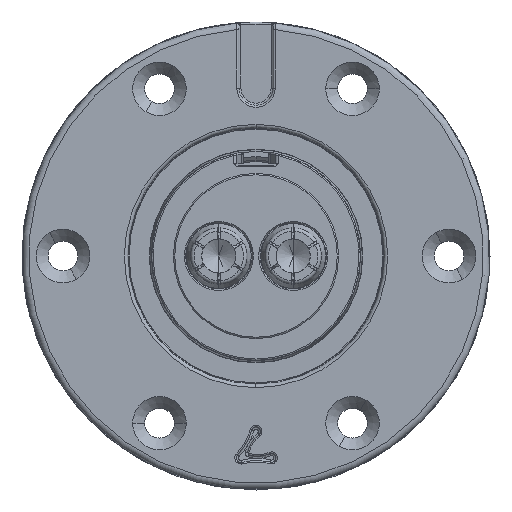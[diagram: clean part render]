
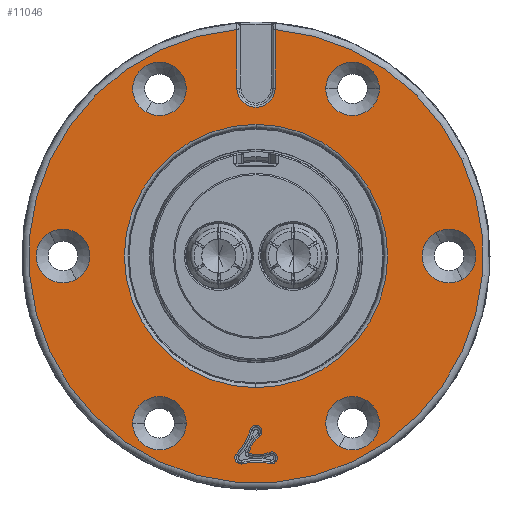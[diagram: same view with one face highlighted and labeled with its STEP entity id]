
A CAD part, front view. The second image highlights one B-rep face of the part: STEP entity #11046.
In plain terms, the highlighted planar face has unit normal (0, -1, 0).
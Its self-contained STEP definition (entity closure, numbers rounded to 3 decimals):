
#8025=CARTESIAN_POINT('',(0.,14.5,0.));
#8026=DIRECTION('',(0.,-1.,0.));
#8027=DIRECTION('',(-0.084,0.,0.996));
#8028=AXIS2_PLACEMENT_3D('',#8025,#8026,#8027);
#8046=CARTESIAN_POINT('',(0.,14.5,0.));
#8047=DIRECTION('',(0.,-1.,0.));
#8048=DIRECTION('',(0.,0.,-1.));
#8049=AXIS2_PLACEMENT_3D('',#8046,#8047,#8048);
#8051=CARTESIAN_POINT('',(0.,14.5,0.));
#8052=DIRECTION('',(0.,-1.,0.));
#8053=DIRECTION('',(0.,0.,1.));
#8054=AXIS2_PLACEMENT_3D('',#8051,#8052,#8053);
#8056=DIRECTION('',(0.,0.,-1.));
#8057=VECTOR('',#8056,8.582);
#8058=CARTESIAN_POINT('',(2.8,14.5,33.182));
#8059=LINE('',#8058,#8057);
#8060=DIRECTION('',(0.,0.,1.));
#8061=VECTOR('',#8060,8.582);
#8062=CARTESIAN_POINT('',(-2.8,14.5,24.6));
#8063=LINE('',#8062,#8061);
#8064=CARTESIAN_POINT('',(0.,14.5,24.6));
#8065=DIRECTION('',(0.,1.,0.));
#8066=DIRECTION('',(1.,0.,0.));
#8067=AXIS2_PLACEMENT_3D('',#8064,#8065,#8066);
#8069=CARTESIAN_POINT('',(14.15,14.5,24.509));
#8070=DIRECTION('',(0.,1.,0.));
#8071=DIRECTION('',(1.,0.,0.));
#8072=AXIS2_PLACEMENT_3D('',#8069,#8070,#8071);
#8074=CARTESIAN_POINT('',(14.15,14.5,24.509));
#8075=DIRECTION('',(0.,1.,0.));
#8076=DIRECTION('',(-1.,0.,0.));
#8077=AXIS2_PLACEMENT_3D('',#8074,#8075,#8076);
#8079=CARTESIAN_POINT('',(-14.15,14.5,24.509));
#8080=DIRECTION('',(0.,1.,0.));
#8081=DIRECTION('',(0.5,0.,0.866));
#8082=AXIS2_PLACEMENT_3D('',#8079,#8080,#8081);
#8084=CARTESIAN_POINT('',(-14.15,14.5,24.509));
#8085=DIRECTION('',(0.,1.,0.));
#8086=DIRECTION('',(-0.5,0.,-0.866));
#8087=AXIS2_PLACEMENT_3D('',#8084,#8085,#8086);
#8089=CARTESIAN_POINT('',(-28.3,14.5,0.));
#8090=DIRECTION('',(0.,1.,0.));
#8091=DIRECTION('',(-0.5,0.,0.866));
#8092=AXIS2_PLACEMENT_3D('',#8089,#8090,#8091);
#8094=CARTESIAN_POINT('',(-28.3,14.5,0.));
#8095=DIRECTION('',(0.,1.,0.));
#8096=DIRECTION('',(0.5,0.,-0.866));
#8097=AXIS2_PLACEMENT_3D('',#8094,#8095,#8096);
#8099=CARTESIAN_POINT('',(-14.15,14.5,-24.509));
#8100=DIRECTION('',(0.,1.,0.));
#8101=DIRECTION('',(-1.,0.,0.));
#8102=AXIS2_PLACEMENT_3D('',#8099,#8100,#8101);
#8104=CARTESIAN_POINT('',(-14.15,14.5,-24.509));
#8105=DIRECTION('',(0.,1.,0.));
#8106=DIRECTION('',(1.,0.,0.));
#8107=AXIS2_PLACEMENT_3D('',#8104,#8105,#8106);
#8109=CARTESIAN_POINT('',(14.15,14.5,-24.509));
#8110=DIRECTION('',(0.,1.,0.));
#8111=DIRECTION('',(-0.5,0.,-0.866));
#8112=AXIS2_PLACEMENT_3D('',#8109,#8110,#8111);
#8114=CARTESIAN_POINT('',(14.15,14.5,-24.509));
#8115=DIRECTION('',(0.,1.,0.));
#8116=DIRECTION('',(0.5,0.,0.866));
#8117=AXIS2_PLACEMENT_3D('',#8114,#8115,#8116);
#8119=CARTESIAN_POINT('',(28.3,14.5,0.));
#8120=DIRECTION('',(0.,1.,0.));
#8121=DIRECTION('',(0.5,0.,-0.866));
#8122=AXIS2_PLACEMENT_3D('',#8119,#8120,#8121);
#8124=CARTESIAN_POINT('',(28.3,14.5,0.));
#8125=DIRECTION('',(0.,1.,0.));
#8126=DIRECTION('',(-0.5,0.,0.866));
#8127=AXIS2_PLACEMENT_3D('',#8124,#8125,#8126);
#8129=CARTESIAN_POINT('',(0.,14.5,-25.7));
#8130=DIRECTION('',(0.,1.,0.));
#8131=DIRECTION('',(-0.96,0.,0.281));
#8132=AXIS2_PLACEMENT_3D('',#8129,#8130,#8131);
#8134=CARTESIAN_POINT('',(-9.357,14.5,-22.959));
#8135=DIRECTION('',(0.,-1.,0.));
#8136=DIRECTION('',(0.73,0.,-0.683));
#8137=AXIS2_PLACEMENT_3D('',#8134,#8135,#8136);
#8139=CARTESIAN_POINT('',(-2.239,14.5,-29.622));
#8140=DIRECTION('',(0.,1.,0.));
#8141=DIRECTION('',(0.24,0.,-0.971));
#8142=AXIS2_PLACEMENT_3D('',#8139,#8140,#8141);
#8144=CARTESIAN_POINT('',(0.106,14.5,-39.086));
#8145=DIRECTION('',(0.,-1.,0.));
#8146=DIRECTION('',(0.221,0.,0.975));
#8147=AXIS2_PLACEMENT_3D('',#8144,#8145,#8146);
#8149=CARTESIAN_POINT('',(2.264,14.5,-29.578));
#8150=DIRECTION('',(0.,1.,0.));
#8151=DIRECTION('',(-0.392,0.,0.92));
#8152=AXIS2_PLACEMENT_3D('',#8149,#8150,#8151);
#8154=CARTESIAN_POINT('',(0.227,14.5,-24.793));
#8155=DIRECTION('',(0.,-1.,0.));
#8156=DIRECTION('',(-0.287,0.,-0.958));
#8157=AXIS2_PLACEMENT_3D('',#8154,#8155,#8156);
#8159=CARTESIAN_POINT('',(-1.003,14.5,-28.903));
#8160=DIRECTION('',(0.,1.,0.));
#8161=DIRECTION('',(-0.287,0.,-0.958));
#8162=AXIS2_PLACEMENT_3D('',#8159,#8160,#8161);
#8164=CARTESIAN_POINT('',(3.192,14.5,-29.805));
#8165=DIRECTION('',(0.,-1.,0.));
#8166=DIRECTION('',(-0.614,0.,0.789));
#8167=AXIS2_PLACEMENT_3D('',#8164,#8165,#8166);
#10371=CARTESIAN_POINT('',(2.8,14.5,33.182));
#10372=CARTESIAN_POINT('',(2.8,14.5,24.6));
#10373=VERTEX_POINT('',#10371);
#10374=VERTEX_POINT('',#10372);
#10379=CARTESIAN_POINT('',(-2.8,14.5,33.182));
#10380=VERTEX_POINT('',#10379);
#10409=CARTESIAN_POINT('',(18.075,14.5,24.509));
#10410=CARTESIAN_POINT('',(10.225,14.5,24.509));
#10411=VERTEX_POINT('',#10409);
#10412=VERTEX_POINT('',#10410);
#10421=CARTESIAN_POINT('',(-12.188,14.5,27.908));
#10422=CARTESIAN_POINT('',(-16.113,14.5,21.109));
#10423=VERTEX_POINT('',#10421);
#10424=VERTEX_POINT('',#10422);
#10433=CARTESIAN_POINT('',(-30.263,14.5,3.399));
#10434=CARTESIAN_POINT('',(-26.338,14.5,-3.399));
#10435=VERTEX_POINT('',#10433);
#10436=VERTEX_POINT('',#10434);
#10445=CARTESIAN_POINT('',(-18.075,14.5,-24.509));
#10446=CARTESIAN_POINT('',(-10.225,14.5,-24.509));
#10447=VERTEX_POINT('',#10445);
#10448=VERTEX_POINT('',#10446);
#10523=CARTESIAN_POINT('',(0.,14.5,-19.3));
#10524=CARTESIAN_POINT('',(0.,14.5,19.3));
#10525=VERTEX_POINT('',#10523);
#10526=VERTEX_POINT('',#10524);
#10537=CARTESIAN_POINT('',(12.188,14.5,-27.908));
#10538=CARTESIAN_POINT('',(16.113,14.5,-21.109));
#10539=VERTEX_POINT('',#10537);
#10540=VERTEX_POINT('',#10538);
#10545=CARTESIAN_POINT('',(30.263,14.5,-3.399));
#10546=CARTESIAN_POINT('',(26.338,14.5,3.399));
#10547=VERTEX_POINT('',#10545);
#10548=VERTEX_POINT('',#10546);
#10549=CARTESIAN_POINT('',(-0.835,14.5,-25.455));
#10550=CARTESIAN_POINT('',(0.534,14.5,-26.387));
#10551=VERTEX_POINT('',#10549);
#10552=VERTEX_POINT('',#10550);
#10553=CARTESIAN_POINT('',(-1.042,14.5,-28.895));
#10554=VERTEX_POINT('',#10553);
#10555=CARTESIAN_POINT('',(-1.014,14.5,-28.942));
#10556=VERTEX_POINT('',#10555);
#10557=CARTESIAN_POINT('',(1.924,14.5,-28.777));
#10558=VERTEX_POINT('',#10557);
#10559=CARTESIAN_POINT('',(2.072,14.5,-30.426));
#10560=VERTEX_POINT('',#10559);
#10561=CARTESIAN_POINT('',(-2.03,14.5,-30.467));
#10562=VERTEX_POINT('',#10561);
#10563=CARTESIAN_POINT('',(-2.874,14.5,-29.027));
#10564=VERTEX_POINT('',#10563);
#10573=CARTESIAN_POINT('',(-2.8,14.5,24.6));
#10574=VERTEX_POINT('',#10573);
#10972=CARTESIAN_POINT('',(0.,14.5,0.));
#10973=DIRECTION('',(0.,1.,0.));
#10974=DIRECTION('',(0.,0.,-1.));
#10975=AXIS2_PLACEMENT_3D('',#10972,#10973,#10974);
#10976=PLANE('',#10975);
#10978=ORIENTED_EDGE('',*,*,#10977,.F.);
#10979=ORIENTED_EDGE('',*,*,#10958,.F.);
#10981=ORIENTED_EDGE('',*,*,#10980,.F.);
#10983=ORIENTED_EDGE('',*,*,#10982,.F.);
#10984=EDGE_LOOP('',(#10978,#10979,#10981,#10983));
#10985=FACE_OUTER_BOUND('',#10984,.F.);
#10987=ORIENTED_EDGE('',*,*,#10986,.T.);
#10989=ORIENTED_EDGE('',*,*,#10988,.T.);
#10990=EDGE_LOOP('',(#10987,#10989));
#10991=FACE_BOUND('',#10990,.F.);
#10993=ORIENTED_EDGE('',*,*,#10992,.F.);
#10995=ORIENTED_EDGE('',*,*,#10994,.F.);
#10996=EDGE_LOOP('',(#10993,#10995));
#10997=FACE_BOUND('',#10996,.F.);
#10999=ORIENTED_EDGE('',*,*,#10998,.F.);
#11001=ORIENTED_EDGE('',*,*,#11000,.F.);
#11002=EDGE_LOOP('',(#10999,#11001));
#11003=FACE_BOUND('',#11002,.F.);
#11005=ORIENTED_EDGE('',*,*,#11004,.F.);
#11007=ORIENTED_EDGE('',*,*,#11006,.F.);
#11008=EDGE_LOOP('',(#11005,#11007));
#11009=FACE_BOUND('',#11008,.F.);
#11011=ORIENTED_EDGE('',*,*,#11010,.F.);
#11013=ORIENTED_EDGE('',*,*,#11012,.F.);
#11014=EDGE_LOOP('',(#11011,#11013));
#11015=FACE_BOUND('',#11014,.F.);
#11017=ORIENTED_EDGE('',*,*,#11016,.F.);
#11019=ORIENTED_EDGE('',*,*,#11018,.F.);
#11020=EDGE_LOOP('',(#11017,#11019));
#11021=FACE_BOUND('',#11020,.F.);
#11023=ORIENTED_EDGE('',*,*,#11022,.F.);
#11025=ORIENTED_EDGE('',*,*,#11024,.F.);
#11026=EDGE_LOOP('',(#11023,#11025));
#11027=FACE_BOUND('',#11026,.F.);
#11029=ORIENTED_EDGE('',*,*,#11028,.F.);
#11031=ORIENTED_EDGE('',*,*,#11030,.F.);
#11033=ORIENTED_EDGE('',*,*,#11032,.F.);
#11035=ORIENTED_EDGE('',*,*,#11034,.F.);
#11037=ORIENTED_EDGE('',*,*,#11036,.F.);
#11039=ORIENTED_EDGE('',*,*,#11038,.F.);
#11041=ORIENTED_EDGE('',*,*,#11040,.T.);
#11043=ORIENTED_EDGE('',*,*,#11042,.F.);
#11044=EDGE_LOOP('',(#11029,#11031,#11033,#11035,#11037,#11039,#11041,#11043));
#11045=FACE_BOUND('',#11044,.F.);
#8029=CIRCLE('',#8028,33.3);
#8050=CIRCLE('',#8049,19.3);
#8055=CIRCLE('',#8054,19.3);
#8068=CIRCLE('',#8067,2.8);
#8073=CIRCLE('',#8072,3.925);
#8078=CIRCLE('',#8077,3.925);
#8083=CIRCLE('',#8082,3.925);
#8088=CIRCLE('',#8087,3.925);
#8093=CIRCLE('',#8092,3.925);
#8098=CIRCLE('',#8097,3.925);
#8103=CIRCLE('',#8102,3.925);
#8108=CIRCLE('',#8107,3.925);
#8113=CIRCLE('',#8112,3.925);
#8118=CIRCLE('',#8117,3.925);
#8123=CIRCLE('',#8122,3.925);
#8128=CIRCLE('',#8127,3.925);
#8133=CIRCLE('',#8132,0.87);
#8138=CIRCLE('',#8137,8.88);
#8143=CIRCLE('',#8142,0.87);
#8148=CIRCLE('',#8147,8.88);
#8153=CIRCLE('',#8152,0.87);
#8158=CIRCLE('',#8157,4.33);
#8163=CIRCLE('',#8162,0.04);
#8168=CIRCLE('',#8167,4.33);
#10958=EDGE_CURVE('',#10380,#10373,#8029,.T.);
#10977=EDGE_CURVE('',#10373,#10374,#8059,.T.);
#10980=EDGE_CURVE('',#10574,#10380,#8063,.T.);
#10982=EDGE_CURVE('',#10374,#10574,#8068,.T.);
#10986=EDGE_CURVE('',#10525,#10526,#8050,.T.);
#10988=EDGE_CURVE('',#10526,#10525,#8055,.T.);
#10992=EDGE_CURVE('',#10411,#10412,#8073,.T.);
#10994=EDGE_CURVE('',#10412,#10411,#8078,.T.);
#10998=EDGE_CURVE('',#10423,#10424,#8083,.T.);
#11000=EDGE_CURVE('',#10424,#10423,#8088,.T.);
#11004=EDGE_CURVE('',#10435,#10436,#8093,.T.);
#11006=EDGE_CURVE('',#10436,#10435,#8098,.T.);
#11010=EDGE_CURVE('',#10447,#10448,#8103,.T.);
#11012=EDGE_CURVE('',#10448,#10447,#8108,.T.);
#11016=EDGE_CURVE('',#10539,#10540,#8113,.T.);
#11018=EDGE_CURVE('',#10540,#10539,#8118,.T.);
#11022=EDGE_CURVE('',#10547,#10548,#8123,.T.);
#11024=EDGE_CURVE('',#10548,#10547,#8128,.T.);
#11028=EDGE_CURVE('',#10551,#10552,#8133,.T.);
#11030=EDGE_CURVE('',#10564,#10551,#8138,.T.);
#11032=EDGE_CURVE('',#10562,#10564,#8143,.T.);
#11034=EDGE_CURVE('',#10560,#10562,#8148,.T.);
#11036=EDGE_CURVE('',#10558,#10560,#8153,.T.);
#11038=EDGE_CURVE('',#10556,#10558,#8158,.T.);
#11040=EDGE_CURVE('',#10556,#10554,#8163,.T.);
#11042=EDGE_CURVE('',#10552,#10554,#8168,.T.);
#11046=ADVANCED_FACE('',(#10985,#10991,#10997,#11003,#11009,#11015,#11021,
#11027,#11045),#10976,.F.);
